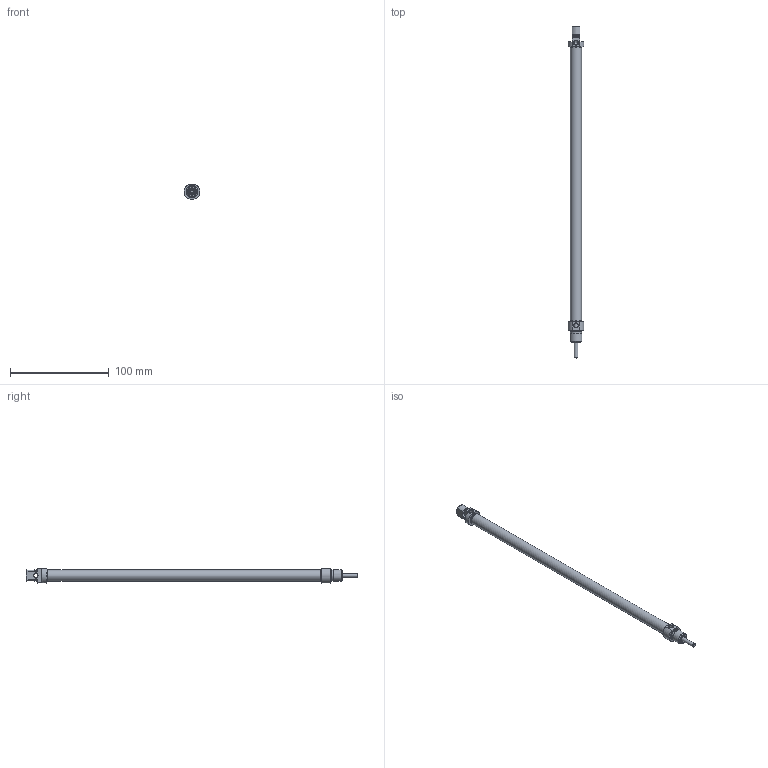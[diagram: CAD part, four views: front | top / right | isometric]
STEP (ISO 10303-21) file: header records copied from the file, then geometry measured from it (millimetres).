
FILE_DESCRIPTION((''),'2;1');
FILE_NAME('T:\Archivio Inventor\- 00 NUOVI STP PER SITO CON STELO CHE SI MUOVE\SERIE O\ODM\ODM010.---.GS.M\ODM010.250.GS.M.stp','2014-02-25T14:20:57',('carlo.corazza'),(''),'Autodesk Inventor 2012','Autodesk Inventor 2012','');
FILE_SCHEMA(('AUTOMOTIVE_DESIGN { 1 0 10303 214 1 1 1 1 }'));
Length unit declared in the file: millimetre
Products named in the file (5): ODM010..GS.M; TP; CORPO-250; TA; STELO-250
Assembly tree (4 placements, depth 2):
  ODM010..GS.M
    TP
    CORPO-250
    TA
    STELO-250
Bounding box: 16 x 336 x 15 mm (x, y, z)
Volume: 14832.4 mm3; surface area: 25611.6 mm2
Topology: 4 solids, 4 shells, 90 faces, 185 edges, 118 vertices
Faces by surface type: plane 32, cylinder 28, cone 23, torus 7
Full cylindrical faces by diameter (mm): 3 x1, 4 x2, 4.134 x2, 4.426 x1, 4.7 x1, 6.5 x1, 6.6 x1, 6.7 x1, 8.1 x1, 8.2 x1, 10 x1, 11.2 x3, 11.27 x1, 12 x2
Entity records: 2347 total; most frequent: CARTESIAN_POINT 410, DIRECTION 404, ORIENTED_EDGE 260, AXIS2_PLACEMENT_3D 184, EDGE_LOOP 154, EDGE_CURVE 130, VERTEX_POINT 108, FACE_OUTER_BOUND 90
